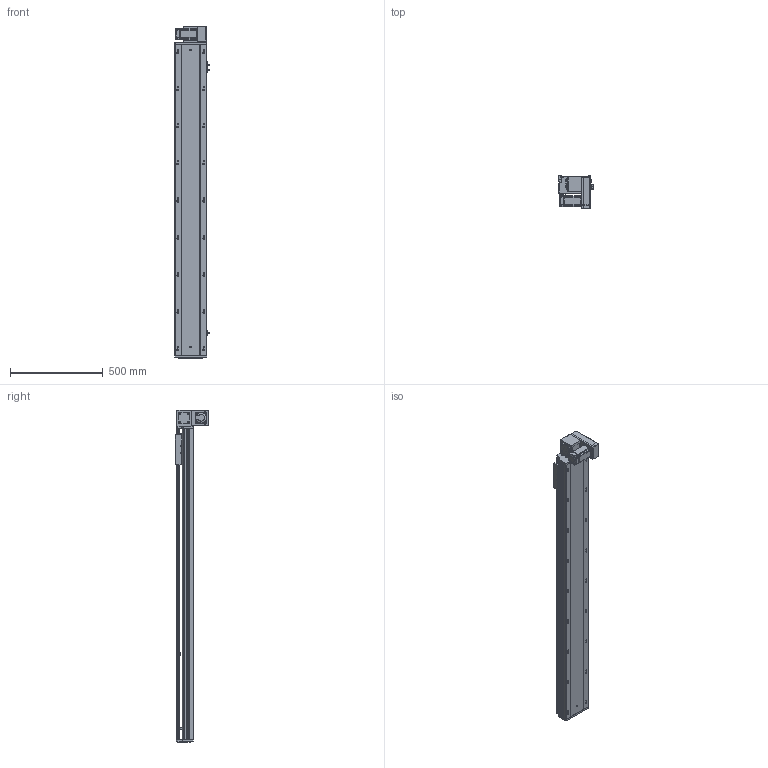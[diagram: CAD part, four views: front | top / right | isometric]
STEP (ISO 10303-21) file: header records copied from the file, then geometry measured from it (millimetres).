
FILE_DESCRIPTION (( 'STEP AP203' ), '1' );
FILE_NAME ('RY170-T-300-DR-P400W.SLDASM_1400.step', '2021-03-01T08:24:00', ( '盈信电脑' ), ( '东莞市道滘镇水果街19号' ), 'SwSTEP 2.0', 'SolidWorks 2012', '' );
FILE_SCHEMA (( 'CONFIG_CONTROL_DESIGN' ));
Length unit declared in the file: millimetre
Products named in the file (19): RY170-T-300肮祭謫倰第裔啣-DR_1400; RY170綴裔啣; RY170肮祭湍臏賑輸; RY170-T-300肮祭謫倰第菁釱-DR_1400; RY170-T-300-DR-P400W.SLDASM_1400; 15; 滅袉蝶18-10; RY170-T-呴雄粣揤踡啣; RY170-T蹟翐M4; RY120-T主同步轮轴承压盖; RY170-T肮祭湍揤踡輸2; RY170-T肮祭謫裔啣; RY170肮祭謫萇儂欶; RY170-T肮祭湍揤踡輸1; RY170同步轮电机安装板(400W); RY170翋肮祭謫釱; RY170外置感应片(200共用）; RY170肮祭謫ヶ裔啣; 覜茼ん672
Assembly tree (23 placements, depth 2):
  RY170-T-300-DR-P400W.SLDASM_1400
    RY170-T-300肮祭謫倰第菁釱-DR_1400
    RY170肮祭湍臏賑輸
    RY170-T-300肮祭謫倰第裔啣-DR_1400
    RY170綴裔啣
    覜茼ん672  x3
    RY170外置感应片(200共用）
    RY170肮祭謫ヶ裔啣
    RY170翋肮祭謫釱
    RY170同步轮电机安装板(400W)
    RY170肮祭謫萇儂欶
    RY170-T肮祭湍揤踡輸1  x2
    RY170-T肮祭湍揤踡輸2  x2
    RY120-T主同步轮轴承压盖
    RY170-T肮祭謫裔啣
    RY170-T蹟翐M4
    滅袉蝶18-10  x2
    RY170-T-呴雄粣揤踡啣
    15
Bounding box: 183.7 x 178 x 1788 mm (x, y, z)
Volume: 8586418 mm3; surface area: 2934845.1 mm2
Topology: 23 solids, 23 shells, 2858 faces, 7954 edges, 5091 vertices
Faces by surface type: cylinder 1296, plane 1268, cone 264, bspline 30
Entity records: 85837 total; most frequent: CARTESIAN_POINT 19319, ORIENTED_EDGE 13560, DIRECTION 13320, EDGE_CURVE 6780, AXIS2_PLACEMENT_3D 4702, VERTEX_POINT 4447, VECTOR 3916, LINE 3916
